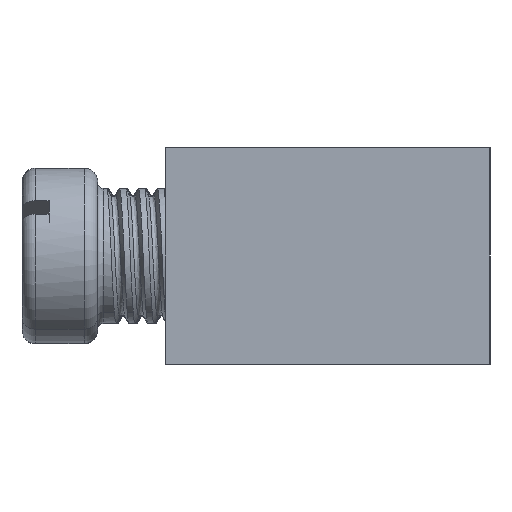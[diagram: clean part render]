
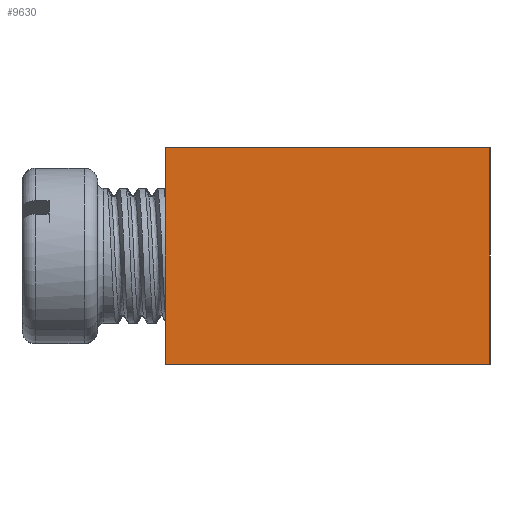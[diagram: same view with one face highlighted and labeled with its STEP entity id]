
A CAD part, left-side view. The second image highlights one B-rep face of the part: STEP entity #9630.
In plain terms, the highlighted planar face has unit normal (-1, 0, 0).
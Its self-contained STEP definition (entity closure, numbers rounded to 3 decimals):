
#408 = CARTESIAN_POINT ( 'NONE',  ( 0., 0., -8. ) ) ;
#806 = EDGE_CURVE ( 'NONE', #3884, #9979, #5483, .T. ) ;
#1392 = VECTOR ( 'NONE', #1517, 1000. ) ;
#1517 = DIRECTION ( 'NONE',  ( 0., -1., 0. ) ) ;
#1589 = CARTESIAN_POINT ( 'NONE',  ( 0., 0., 0. ) ) ;
#1648 = LINE ( 'NONE', #5628, #1392 ) ;
#3186 = DIRECTION ( 'NONE',  ( 0., 0., 1. ) ) ;
#3789 = ORIENTED_EDGE ( 'NONE', *, *, #5103, .F. ) ;
#3884 = VERTEX_POINT ( 'NONE', #7010 ) ;
#4024 = AXIS2_PLACEMENT_3D ( 'NONE', #8154, #10676, #5715 ) ;
#4300 = CARTESIAN_POINT ( 'NONE',  ( 0., 0., -8. ) ) ;
#4323 = CARTESIAN_POINT ( 'NONE',  ( 0., 0., -8. ) ) ;
#4356 = VECTOR ( 'NONE', #10110, 1000. ) ;
#4959 = VERTEX_POINT ( 'NONE', #8788 ) ;
#5103 = EDGE_CURVE ( 'NONE', #3884, #4959, #10546, .T. ) ;
#5209 = ORIENTED_EDGE ( 'NONE', *, *, #806, .T. ) ;
#5354 = DIRECTION ( 'NONE',  ( 0., -1., 0. ) ) ;
#5483 = LINE ( 'NONE', #408, #7678 ) ;
#5542 = FACE_OUTER_BOUND ( 'NONE', #9124, .T. ) ;
#5628 = CARTESIAN_POINT ( 'NONE',  ( 0., 0., 0. ) ) ;
#5670 = EDGE_CURVE ( 'NONE', #4959, #9776, #1648, .T. ) ;
#5715 = DIRECTION ( 'NONE',  ( 0., 0., 1. ) ) ;
#6123 = EDGE_CURVE ( 'NONE', #9979, #9776, #7067, .T. ) ;
#7010 = CARTESIAN_POINT ( 'NONE',  ( 0., 12., -8. ) ) ;
#7067 = LINE ( 'NONE', #4323, #4356 ) ;
#7678 = VECTOR ( 'NONE', #5354, 1000. ) ;
#7749 = ORIENTED_EDGE ( 'NONE', *, *, #6123, .T. ) ;
#8120 = PLANE ( 'NONE',  #4024 ) ;
#8121 = CARTESIAN_POINT ( 'NONE',  ( 0., 12., -8. ) ) ;
#8154 = CARTESIAN_POINT ( 'NONE',  ( 0., 0., -8. ) ) ;
#8788 = CARTESIAN_POINT ( 'NONE',  ( 0., 12., 0. ) ) ;
#8868 = ORIENTED_EDGE ( 'NONE', *, *, #5670, .F. ) ;
#9124 = EDGE_LOOP ( 'NONE', ( #8868, #3789, #5209, #7749 ) ) ;
#9630 = ADVANCED_FACE ( 'NONE', ( #5542 ), #8120, .T. ) ;
#9776 = VERTEX_POINT ( 'NONE', #1589 ) ;
#9979 = VERTEX_POINT ( 'NONE', #4300 ) ;
#10012 = VECTOR ( 'NONE', #3186, 1000. ) ;
#10110 = DIRECTION ( 'NONE',  ( 0., 0., 1. ) ) ;
#10546 = LINE ( 'NONE', #8121, #10012 ) ;
#10676 = DIRECTION ( 'NONE',  ( -1., 0., 0. ) ) ;
